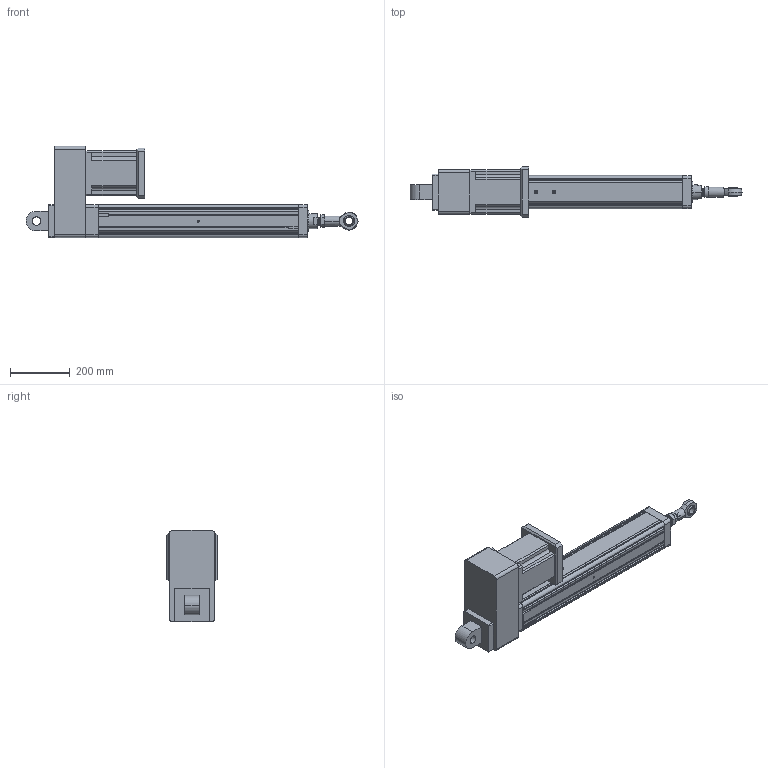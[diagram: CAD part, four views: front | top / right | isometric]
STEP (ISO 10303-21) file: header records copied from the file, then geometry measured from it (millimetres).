
FILE_DESCRIPTION (( 'STEP AP203' ), '1' );
FILE_NAME ('YRJ110-L500-H6K3.STEP', '2020-01-04T07:00:34', ( 'User' ), ( 'China' ), 'SwSTEP 2.0', 'SolidWorks 2016', '' );
FILE_SCHEMA (( 'CONFIG_CONTROL_DESIGN' ));
Length unit declared in the file: millimetre
Products named in the file (12): BNC01-SI25T_K-R; K3-110; 142熬厒儂; YRJ110-L500-H6K3; H5-110-1; H6-110; H3-110-2; K1-110; 095-100俴最倰第; _BNC01-SI25T_K-R-001; 萇儂碟-110; _BNC01-SI25T_K-R-002
Assembly tree (11 placements, depth 4):
  YRJ110-L500-H6K3
    095-100俴最倰第
    萇儂碟-110
    142熬厒儂
    H5-110-1
    H6-110
    H3-110-2
    K3-110
      K1-110
      BNC01-SI25T_K-R
        _BNC01-SI25T_K-R-001
        _BNC01-SI25T_K-R-002
Bounding box: 1110 x 168 x 305.5 mm (x, y, z)
Volume: 13100718.6 mm3; surface area: 1148926.8 mm2
Topology: 9 solids, 9 shells, 406 faces, 1116 edges, 719 vertices
Faces by surface type: plane 190, cylinder 168, cone 34, bspline 14
Entity records: 23115 total; most frequent: CARTESIAN_POINT 11746, ORIENTED_EDGE 2176, DIRECTION 2031, EDGE_CURVE 1088, VERTEX_POINT 719, AXIS2_PLACEMENT_3D 684, VECTOR 663, LINE 663
